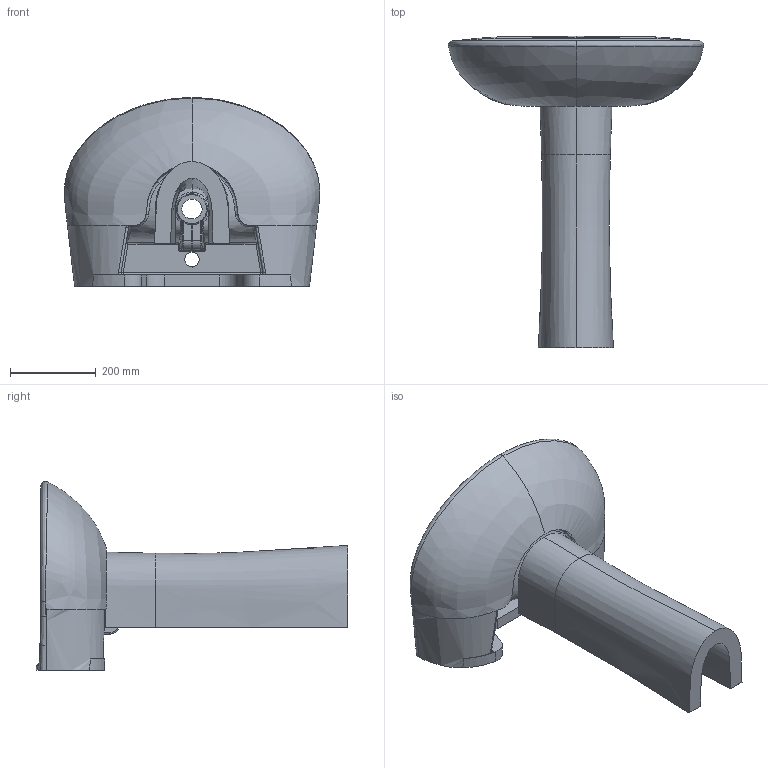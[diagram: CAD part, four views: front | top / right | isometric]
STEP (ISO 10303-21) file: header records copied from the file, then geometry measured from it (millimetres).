
FILE_DESCRIPTION (( 'STEP AP203' ), '1' );
FILE_NAME ('SD060-00CB00E-0000+SD251-00CB00E-0000--1.STEP', '2022-05-12T05:54:56', ( '' ), ( '' ), 'SwSTEP 2.0', 'SolidWorks 2021', '' );
FILE_SCHEMA (( 'CONFIG_CONTROL_DESIGN' ));
Length unit declared in the file: metre
Products named in the file (1): SD060-00CB00E-0000+SD251-00CB00E-0000--1
Bounding box: 597.68 x 728.87 x 441.88 mm (x, y, z)
Volume: 20410272.7 mm3; surface area: 1340253.1 mm2
Topology: 3 solids, 4 shells, 309 faces, 812 edges, 498 vertices
Faces by surface type: bspline 205, cylinder 44, plane 44, sphere 6, cone 6, torus 4
Entity records: 79309 total; most frequent: CARTESIAN_POINT 73383, ORIENTED_EDGE 1600, EDGE_CURVE 800, DIRECTION 649, VERTEX_POINT 498, B_SPLINE_CURVE_WITH_KNOTS 490, EDGE_LOOP 318, ADVANCED_FACE 309
